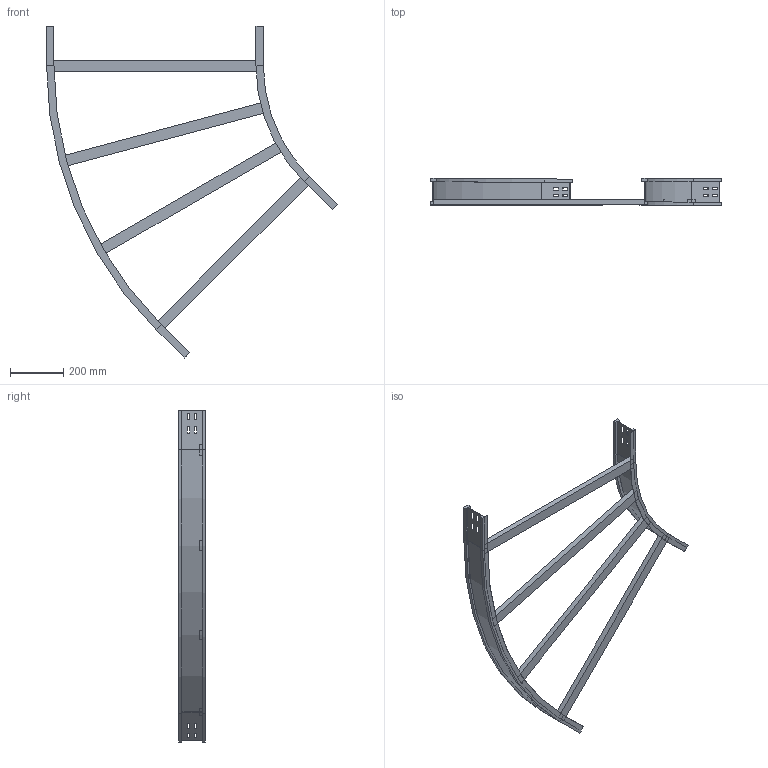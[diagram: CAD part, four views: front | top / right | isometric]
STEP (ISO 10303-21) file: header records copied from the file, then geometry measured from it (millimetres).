
FILE_DESCRIPTION (( 'STEP AP214' ), '1' );
FILE_NAME ('11S6D800.step', '2025-02-21T16:04:00', ( '' ), ( '' ), 'SwSTEP 2.0', 'SolidWorks 2023', '' );
FILE_SCHEMA (( 'AUTOMOTIVE_DESIGN' ));
Length unit declared in the file: millimetre
Products named in the file (4): 11S6D800; TRAVERSINO_800; LONGH.ESTERNO 45°_H100_R600+800; LONGH.INTERNO 45°_H100_R600
Assembly tree (6 placements, depth 2):
  11S6D800
    LONGH.INTERNO 45°_H100_R600
    LONGH.ESTERNO 45°_H100_R600+800
    TRAVERSINO_800  x4
Bounding box: 1097.17 x 100 x 1252.38 mm (x, y, z)
Volume: 3727944.8 mm3; surface area: 1033507.5 mm2
Topology: 6 solids, 6 shells, 164 faces, 408 edges, 256 vertices
Faces by surface type: plane 152, cylinder 12
Entity records: 4485 total; most frequent: CARTESIAN_POINT 759, ORIENTED_EDGE 744, DIRECTION 706, EDGE_CURVE 372, LINE 348, VECTOR 348, VERTEX_POINT 232, AXIS2_PLACEMENT_3D 179
